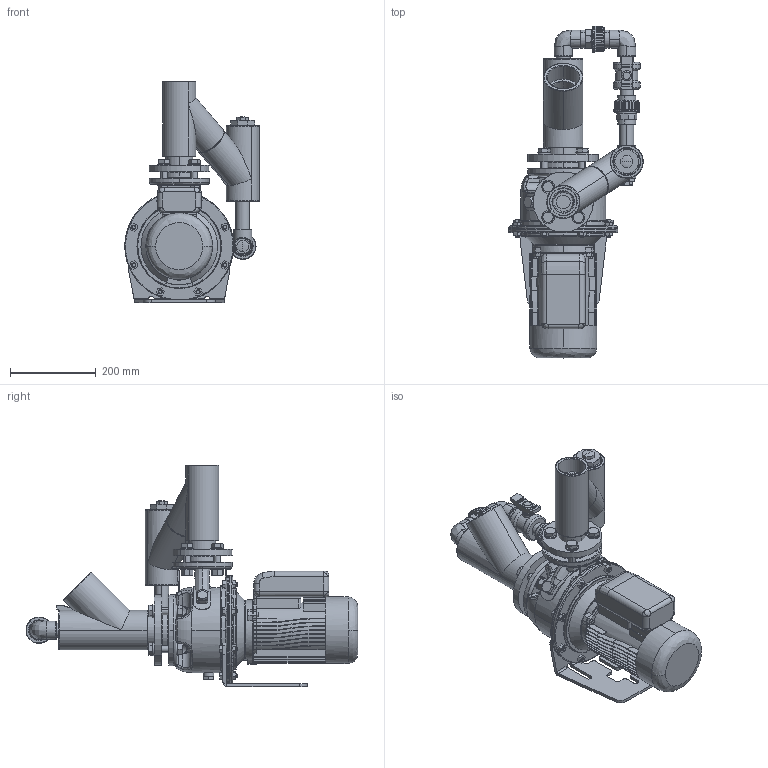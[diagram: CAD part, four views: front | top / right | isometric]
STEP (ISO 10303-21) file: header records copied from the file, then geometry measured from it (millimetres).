
FILE_DESCRIPTION (( 'STEP AP203' ), '1' );
FILE_NAME ('Lowara SHE 32-160 z.a.z handbed. by-pass .STEP', '2011-04-06T06:52:39', ( '' ), ( '' ), 'SwSTEP 2.0', 'SolidWorks 2010', '' );
FILE_SCHEMA (( 'CONFIG_CONTROL_DESIGN' ));
Length unit declared in the file: millimetre
Products named in the file (1): Lowara SHE 32-160 z.a.z handbed. by-pass 
Bounding box: 313.47 x 773.44 x 516.36 mm (x, y, z)
Volume: 13563098.5 mm3; surface area: 1771317.1 mm2
Topology: 61 solids, 63 shells, 2605 faces, 6644 edges, 4139 vertices
Faces by surface type: plane 994, cylinder 829, cone 380, bspline 375, torus 27
Entity records: 103614 total; most frequent: CARTESIAN_POINT 43768, ORIENTED_EDGE 13060, DIRECTION 11847, EDGE_CURVE 6530, AXIS2_PLACEMENT_3D 4635, VERTEX_POINT 4145, EDGE_LOOP 2861, FACE_OUTER_BOUND 2607
